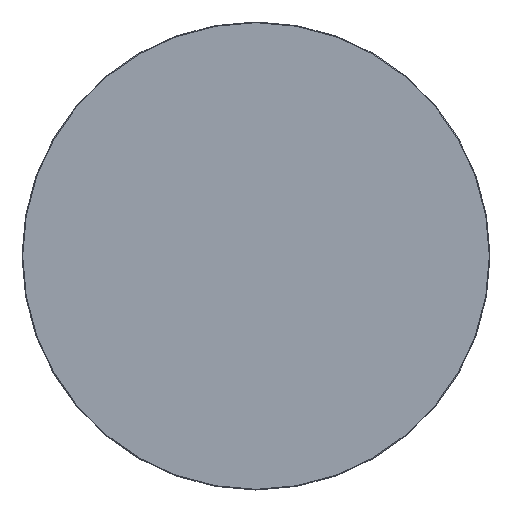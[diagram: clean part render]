
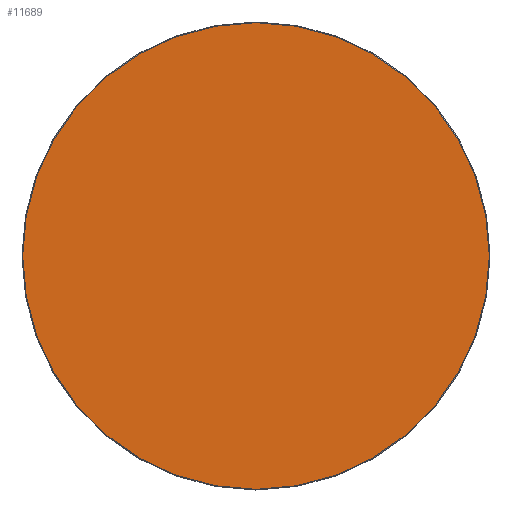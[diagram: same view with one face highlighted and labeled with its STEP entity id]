
A CAD part, top view. The second image highlights one B-rep face of the part: STEP entity #11689.
In plain terms, the highlighted planar face has unit normal (0, 0, 1).
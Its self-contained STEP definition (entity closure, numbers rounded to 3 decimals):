
#11614=CARTESIAN_POINT('',(0.,0.,20.));
#11615=DIRECTION('',(1.,0.,0.));
#11616=DIRECTION('',(0.,0.,1.));
#11617=AXIS2_PLACEMENT_3D('',#11614,#11616,#11615);
#11618=PLANE('',#11617);
#11619=CARTESIAN_POINT('',(-0.5,-498.5,20.));
#11620=VERTEX_POINT('',#11619);
#11621=CARTESIAN_POINT('',(0.5,-498.5,20.));
#11622=VERTEX_POINT('',#11621);
#11623=CARTESIAN_POINT('',(-0.5,-498.5,20.));
#11624=DIRECTION('',(1.,0.,0.));
#11625=VECTOR('',#11624,1.);
#11626=LINE('',#11623,#11625);
#11627=EDGE_CURVE('',#11620,#11622,#11626,.T.);
#11628=ORIENTED_EDGE('E105',*,*,#11627,.T.);
#11629=CARTESIAN_POINT('',(498.5,-0.5,20.));
#11630=VERTEX_POINT('',#11629);
#11631=CARTESIAN_POINT('',(0.5,-0.5,20.));
#11632=DIRECTION('',(0.,-1.,0.));
#11633=DIRECTION('',(0.,0.,1.));
#11634=AXIS2_PLACEMENT_3D('',#11631,#11633,#11632);
#11635=CIRCLE('',#11634,498.);
#11636=EDGE_CURVE('',#11622,#11630,#11635,.T.);
#11637=ORIENTED_EDGE('E107',*,*,#11636,.T.);
#11638=CARTESIAN_POINT('',(498.5,0.5,20.));
#11639=VERTEX_POINT('',#11638);
#11640=CARTESIAN_POINT('',(498.5,-0.5,20.));
#11641=DIRECTION('',(0.,1.,0.));
#11642=VECTOR('',#11641,1.);
#11643=LINE('',#11640,#11642);
#11644=EDGE_CURVE('',#11630,#11639,#11643,.T.);
#11645=ORIENTED_EDGE('E109',*,*,#11644,.T.);
#11646=CARTESIAN_POINT('',(0.5,498.5,20.));
#11647=VERTEX_POINT('',#11646);
#11648=CARTESIAN_POINT('',(0.5,0.5,20.));
#11649=DIRECTION('',(1.,0.,0.));
#11650=DIRECTION('',(0.,0.,1.));
#11651=AXIS2_PLACEMENT_3D('',#11648,#11650,#11649);
#11652=CIRCLE('',#11651,498.);
#11653=EDGE_CURVE('',#11639,#11647,#11652,.T.);
#11654=ORIENTED_EDGE('E111',*,*,#11653,.T.);
#11655=CARTESIAN_POINT('',(-0.5,498.5,20.));
#11656=VERTEX_POINT('',#11655);
#11657=CARTESIAN_POINT('',(0.5,498.5,20.));
#11658=DIRECTION('',(-1.,0.,0.));
#11659=VECTOR('',#11658,1.);
#11660=LINE('',#11657,#11659);
#11661=EDGE_CURVE('',#11647,#11656,#11660,.T.);
#11662=ORIENTED_EDGE('E113',*,*,#11661,.T.);
#11663=CARTESIAN_POINT('',(-498.5,0.5,20.));
#11664=VERTEX_POINT('',#11663);
#11665=CARTESIAN_POINT('',(-0.5,0.5,20.));
#11666=DIRECTION('',(0.,1.,0.));
#11667=DIRECTION('',(0.,0.,1.));
#11668=AXIS2_PLACEMENT_3D('',#11665,#11667,#11666);
#11669=CIRCLE('',#11668,498.);
#11670=EDGE_CURVE('',#11656,#11664,#11669,.T.);
#11671=ORIENTED_EDGE('E115',*,*,#11670,.T.);
#11672=CARTESIAN_POINT('',(-498.5,-0.5,20.));
#11673=VERTEX_POINT('',#11672);
#11674=CARTESIAN_POINT('',(-498.5,0.5,20.));
#11675=DIRECTION('',(0.,-1.,0.));
#11676=VECTOR('',#11675,1.);
#11677=LINE('',#11674,#11676);
#11678=EDGE_CURVE('',#11664,#11673,#11677,.T.);
#11679=ORIENTED_EDGE('E117',*,*,#11678,.T.);
#11680=CARTESIAN_POINT('',(-0.5,-0.5,20.));
#11681=DIRECTION('',(-1.,0.,0.));
#11682=DIRECTION('',(-0.,0.,1.));
#11683=AXIS2_PLACEMENT_3D('',#11680,#11682,#11681);
#11684=CIRCLE('',#11683,498.);
#11685=EDGE_CURVE('',#11673,#11620,#11684,.T.);
#11686=ORIENTED_EDGE('E119',*,*,#11685,.T.);
#11687=EDGE_LOOP('',(#11628,#11637,#11645,#11654,#11662,#11671,#11679,#11686));
#11688=FACE_OUTER_BOUND('',#11687,.T.);
#11689=ADVANCED_FACE('F2',(#11688),#11618,.T.);
